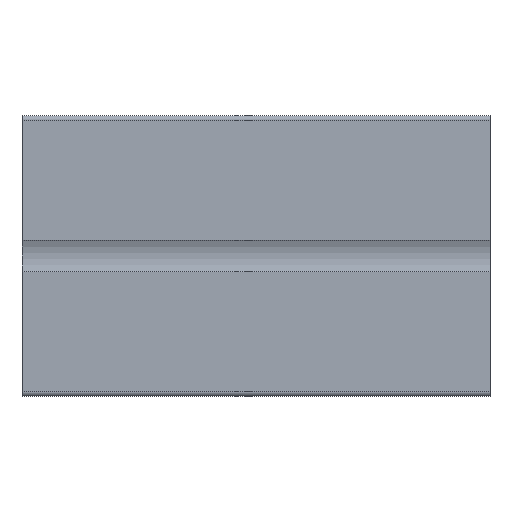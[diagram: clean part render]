
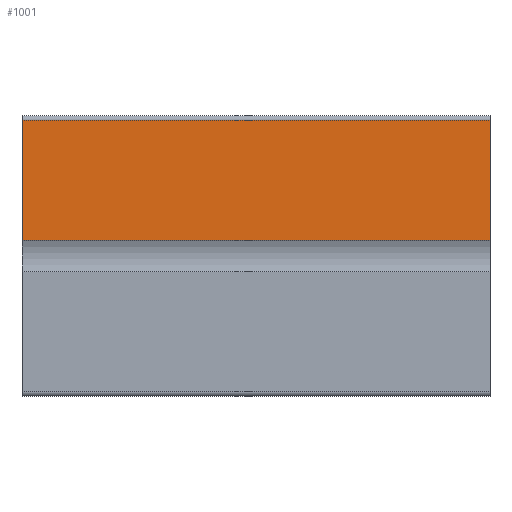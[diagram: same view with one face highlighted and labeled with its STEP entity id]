
A CAD part, left-side view. The second image highlights one B-rep face of the part: STEP entity #1001.
In plain terms, the highlighted planar face has unit normal (-1, 0, 0).
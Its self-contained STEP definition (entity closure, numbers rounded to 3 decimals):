
#70=FACE_OUTER_BOUND('',#120,.T.);
#120=EDGE_LOOP('',(#772,#773,#774,#775));
#228=LINE('',#1550,#358);
#229=LINE('',#1553,#359);
#230=LINE('',#1555,#360);
#231=LINE('',#1556,#361);
#358=VECTOR('',#1265,100.);
#359=VECTOR('',#1268,25.65);
#360=VECTOR('',#1269,25.65);
#361=VECTOR('',#1270,100.);
#464=VERTEX_POINT('',#1546);
#465=VERTEX_POINT('',#1548);
#466=VERTEX_POINT('',#1552);
#467=VERTEX_POINT('',#1554);
#594=EDGE_CURVE('',#464,#465,#228,.T.);
#595=EDGE_CURVE('',#464,#466,#229,.T.);
#596=EDGE_CURVE('',#467,#465,#230,.T.);
#597=EDGE_CURVE('',#466,#467,#231,.T.);
#772=ORIENTED_EDGE('',*,*,#595,.F.);
#773=ORIENTED_EDGE('',*,*,#594,.T.);
#774=ORIENTED_EDGE('',*,*,#596,.F.);
#775=ORIENTED_EDGE('',*,*,#597,.F.);
#953=PLANE('',#1063);
#1001=ADVANCED_FACE('',(#70),#953,.T.);
#1063=AXIS2_PLACEMENT_3D('',#1551,#1266,#1267);
#1265=DIRECTION('',(0.,1.,0.));
#1266=DIRECTION('center_axis',(-1.,0.,0.));
#1267=DIRECTION('ref_axis',(0.,0.,1.));
#1268=DIRECTION('',(0.,0.,-1.));
#1269=DIRECTION('',(0.,0.,1.));
#1270=DIRECTION('',(0.,1.,0.));
#1546=CARTESIAN_POINT('',(75.457,0.,10.661));
#1548=CARTESIAN_POINT('',(75.457,100.,10.661));
#1550=CARTESIAN_POINT('',(75.457,0.,10.661));
#1551=CARTESIAN_POINT('Origin',(75.457,0.,-14.989));
#1552=CARTESIAN_POINT('',(75.457,0.,-14.989));
#1553=CARTESIAN_POINT('',(75.457,0.,10.661));
#1554=CARTESIAN_POINT('',(75.457,100.,-14.989));
#1555=CARTESIAN_POINT('',(75.457,100.,10.661));
#1556=CARTESIAN_POINT('',(75.457,0.,-14.989));
